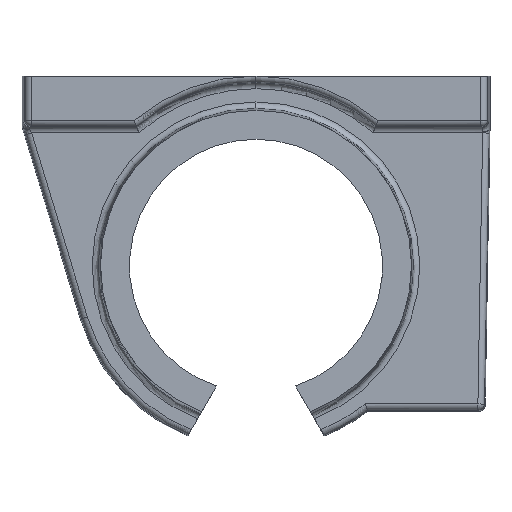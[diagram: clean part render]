
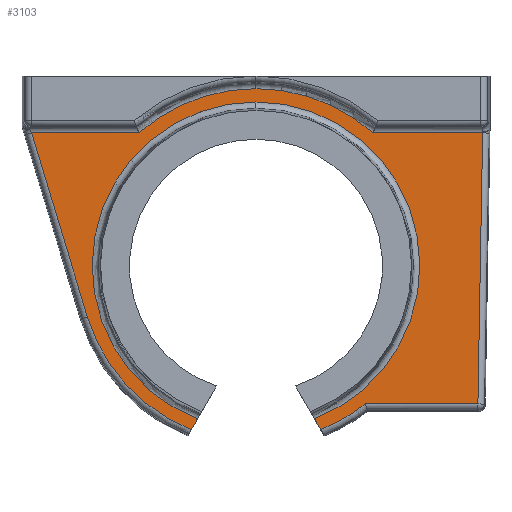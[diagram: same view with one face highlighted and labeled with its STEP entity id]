
A CAD part, front view. The second image highlights one B-rep face of the part: STEP entity #3103.
In plain terms, the highlighted planar face has unit normal (0, -1, 0).
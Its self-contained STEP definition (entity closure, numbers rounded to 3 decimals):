
#20 = CARTESIAN_POINT ( 'NONE',  ( 0., -10., -28. ) ) ;
#74 = EDGE_CURVE ( 'NONE', #2050, #314, #3502, .T. ) ;
#156 = ORIENTED_EDGE ( 'NONE', *, *, #2061, .T. ) ;
#159 = VECTOR ( 'NONE', #3182, 1000. ) ;
#170 = ORIENTED_EDGE ( 'NONE', *, *, #3444, .T. ) ;
#174 = CARTESIAN_POINT ( 'NONE',  ( 0., -10., -28. ) ) ;
#194 = CARTESIAN_POINT ( 'NONE',  ( 0., -10., 0. ) ) ;
#199 = CARTESIAN_POINT ( 'NONE',  ( 35.077, -10., -49.843 ) ) ;
#227 = DIRECTION ( 'NONE',  ( 0.017, 0., 1. ) ) ;
#235 = DIRECTION ( 'NONE',  ( 0., 0., 1. ) ) ;
#313 = DIRECTION ( 'NONE',  ( 0., -1., 0. ) ) ;
#314 = VERTEX_POINT ( 'NONE', #199 ) ;
#315 = ORIENTED_EDGE ( 'NONE', *, *, #3298, .T. ) ;
#364 = PLANE ( 'NONE',  #1338 ) ;
#487 = CARTESIAN_POINT ( 'NONE',  ( -36.815, -10., -7. ) ) ;
#488 = CARTESIAN_POINT ( 'NONE',  ( -26.639, -10., -36.1 ) ) ;
#557 = CARTESIAN_POINT ( 'NONE',  ( -3.539, -10., -30.043 ) ) ;
#662 = LINE ( 'NONE', #1271, #159 ) ;
#686 = AXIS2_PLACEMENT_3D ( 'NONE', #1990, #2283, #1028 ) ;
#695 = CIRCLE ( 'NONE', #3034, 27.843 ) ;
#734 = VECTOR ( 'NONE', #2229, 1000. ) ;
#743 = EDGE_CURVE ( 'NONE', #314, #1657, #3857, .T. ) ;
#787 = ORIENTED_EDGE ( 'NONE', *, *, #2285, .T. ) ;
#837 = CARTESIAN_POINT ( 'NONE',  ( 0., -10., -28. ) ) ;
#850 = CARTESIAN_POINT ( 'NONE',  ( 35.825, -10., -7. ) ) ;
#892 = CIRCLE ( 'NONE', #3027, 27.843 ) ;
#938 = VECTOR ( 'NONE', #227, 1000. ) ;
#944 = ORIENTED_EDGE ( 'NONE', *, *, #2690, .T. ) ;
#945 = VECTOR ( 'NONE', #1947, 1000. ) ;
#959 = DIRECTION ( 'NONE',  ( 0., 1., 0. ) ) ;
#987 = CARTESIAN_POINT ( 'NONE',  ( 17.266, -10., -49.843 ) ) ;
#1028 = DIRECTION ( 'NONE',  ( 0., 0., 1. ) ) ;
#1059 = LINE ( 'NONE', #1342, #945 ) ;
#1079 = CARTESIAN_POINT ( 'NONE',  ( -35.486, -10., -7. ) ) ;
#1116 = DIRECTION ( 'NONE',  ( 0., 0., 1. ) ) ;
#1155 = CIRCLE ( 'NONE', #1540, 25.896 ) ;
#1162 = DIRECTION ( 'NONE',  ( 0., 0., 1. ) ) ;
#1175 = CARTESIAN_POINT ( 'NONE',  ( 10.232, -10., -53.895 ) ) ;
#1190 = DIRECTION ( 'NONE',  ( 0., -1., 0. ) ) ;
#1230 = DIRECTION ( 'NONE',  ( 0., 1., 0. ) ) ;
#1236 = CARTESIAN_POINT ( 'NONE',  ( 36.043, -10., -49.843 ) ) ;
#1271 = CARTESIAN_POINT ( 'NONE',  ( 18.894, -10., -7. ) ) ;
#1275 = VERTEX_POINT ( 'NONE', #3624 ) ;
#1286 = VERTEX_POINT ( 'NONE', #2065 ) ;
#1338 = AXIS2_PLACEMENT_3D ( 'NONE', #3849, #959, #1630 ) ;
#1342 = CARTESIAN_POINT ( 'NONE',  ( -26.639, -10., -36.1 ) ) ;
#1367 = DIRECTION ( 'NONE',  ( 0., -1., 0. ) ) ;
#1404 = VECTOR ( 'NONE', #3973, 1000. ) ;
#1417 = ORIENTED_EDGE ( 'NONE', *, *, #3774, .T. ) ;
#1442 = LINE ( 'NONE', #2726, #2615 ) ;
#1540 = AXIS2_PLACEMENT_3D ( 'NONE', #2770, #1230, #1162 ) ;
#1630 = DIRECTION ( 'NONE',  ( 0., 0., 1. ) ) ;
#1643 = ORIENTED_EDGE ( 'NONE', *, *, #2708, .T. ) ;
#1645 = VERTEX_POINT ( 'NONE', #2998 ) ;
#1657 = VERTEX_POINT ( 'NONE', #850 ) ;
#1742 = VERTEX_POINT ( 'NONE', #3134 ) ;
#1787 = CARTESIAN_POINT ( 'NONE',  ( 0., -10., -28. ) ) ;
#1791 = LINE ( 'NONE', #487, #1868 ) ;
#1800 = CIRCLE ( 'NONE', #686, 25.896 ) ;
#1823 = EDGE_CURVE ( 'NONE', #1742, #2720, #2254, .T. ) ;
#1865 = AXIS2_PLACEMENT_3D ( 'NONE', #20, #313, #2906 ) ;
#1868 = VECTOR ( 'NONE', #3064, 1000. ) ;
#1876 = EDGE_CURVE ( 'NONE', #3258, #3256, #1059, .T. ) ;
#1947 = DIRECTION ( 'NONE',  ( 0.291, 0., -0.957 ) ) ;
#1990 = CARTESIAN_POINT ( 'NONE',  ( 0., -10., -28. ) ) ;
#2050 = VERTEX_POINT ( 'NONE', #987 ) ;
#2057 = LINE ( 'NONE', #557, #1404 ) ;
#2061 = EDGE_CURVE ( 'NONE', #1657, #1742, #662, .T. ) ;
#2065 = CARTESIAN_POINT ( 'NONE',  ( -9.247, -10., -52.189 ) ) ;
#2113 = VERTEX_POINT ( 'NONE', #3243 ) ;
#2229 = DIRECTION ( 'NONE',  ( 1., 0., 0. ) ) ;
#2254 = CIRCLE ( 'NONE', #1865, 28. ) ;
#2283 = DIRECTION ( 'NONE',  ( 0., 1., 0. ) ) ;
#2285 = EDGE_CURVE ( 'NONE', #2720, #1275, #4076, .T. ) ;
#2318 = EDGE_CURVE ( 'NONE', #1275, #3258, #1791, .T. ) ;
#2479 = ORIENTED_EDGE ( 'NONE', *, *, #1823, .T. ) ;
#2547 = EDGE_CURVE ( 'NONE', #1286, #2113, #1800, .T. ) ;
#2612 = DIRECTION ( 'NONE',  ( 0., 0., 1. ) ) ;
#2615 = VECTOR ( 'NONE', #2641, 1000. ) ;
#2640 = VERTEX_POINT ( 'NONE', #2742 ) ;
#2641 = DIRECTION ( 'NONE',  ( 0.5, 0., 0.866 ) ) ;
#2690 = EDGE_CURVE ( 'NONE', #3470, #2050, #892, .T. ) ;
#2708 = EDGE_CURVE ( 'NONE', #1645, #3470, #2057, .T. ) ;
#2720 = VERTEX_POINT ( 'NONE', #194 ) ;
#2721 = DIRECTION ( 'NONE',  ( 0., -1., 0. ) ) ;
#2726 = CARTESIAN_POINT ( 'NONE',  ( 3.539, -10., -30.043 ) ) ;
#2742 = CARTESIAN_POINT ( 'NONE',  ( -10.232, -10., -53.895 ) ) ;
#2770 = CARTESIAN_POINT ( 'NONE',  ( 0., -10., -28. ) ) ;
#2906 = DIRECTION ( 'NONE',  ( 0., 0., 1. ) ) ;
#2907 = ORIENTED_EDGE ( 'NONE', *, *, #2318, .T. ) ;
#2998 = CARTESIAN_POINT ( 'NONE',  ( 9.247, -10., -52.189 ) ) ;
#3027 = AXIS2_PLACEMENT_3D ( 'NONE', #1787, #2721, #235 ) ;
#3034 = AXIS2_PLACEMENT_3D ( 'NONE', #174, #1367, #2612 ) ;
#3064 = DIRECTION ( 'NONE',  ( -1., 0., 0. ) ) ;
#3103 = ADVANCED_FACE ( 'NONE', ( #3185 ), #364, .F. ) ;
#3134 = CARTESIAN_POINT ( 'NONE',  ( 18.52, -10., -7. ) ) ;
#3182 = DIRECTION ( 'NONE',  ( -1., 0., 0. ) ) ;
#3185 = FACE_OUTER_BOUND ( 'NONE', #3598, .T. ) ;
#3212 = AXIS2_PLACEMENT_3D ( 'NONE', #837, #1190, #1116 ) ;
#3243 = CARTESIAN_POINT ( 'NONE',  ( 0., -10., -2.104 ) ) ;
#3253 = CARTESIAN_POINT ( 'NONE',  ( 35.833, -10., -6.554 ) ) ;
#3256 = VERTEX_POINT ( 'NONE', #488 ) ;
#3258 = VERTEX_POINT ( 'NONE', #1079 ) ;
#3298 = EDGE_CURVE ( 'NONE', #2640, #1286, #1442, .T. ) ;
#3444 = EDGE_CURVE ( 'NONE', #2113, #1645, #1155, .T. ) ;
#3470 = VERTEX_POINT ( 'NONE', #1175 ) ;
#3502 = LINE ( 'NONE', #1236, #734 ) ;
#3566 = ORIENTED_EDGE ( 'NONE', *, *, #74, .T. ) ;
#3598 = EDGE_LOOP ( 'NONE', ( #3676, #170, #1643, #944, #3566, #3766, #156, #2479, #787, #2907, #4067, #1417, #315 ) ) ;
#3624 = CARTESIAN_POINT ( 'NONE',  ( -18.52, -10., -7. ) ) ;
#3676 = ORIENTED_EDGE ( 'NONE', *, *, #2547, .T. ) ;
#3766 = ORIENTED_EDGE ( 'NONE', *, *, #743, .T. ) ;
#3774 = EDGE_CURVE ( 'NONE', #3256, #2640, #695, .T. ) ;
#3849 = CARTESIAN_POINT ( 'NONE',  ( 0., -10., -28. ) ) ;
#3857 = LINE ( 'NONE', #3253, #938 ) ;
#3973 = DIRECTION ( 'NONE',  ( 0.5, 0., -0.866 ) ) ;
#4067 = ORIENTED_EDGE ( 'NONE', *, *, #1876, .T. ) ;
#4076 = CIRCLE ( 'NONE', #3212, 28. ) ;
